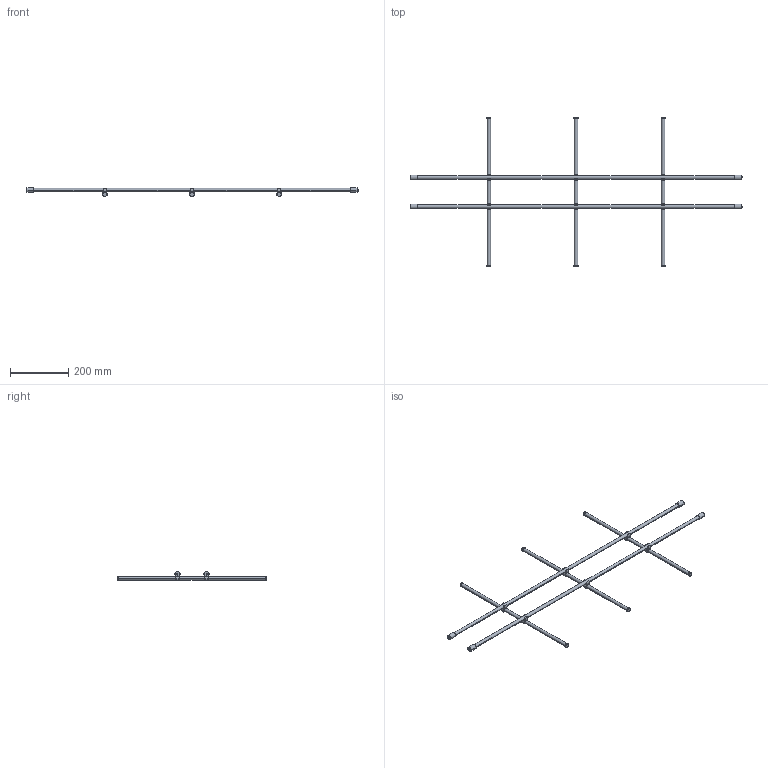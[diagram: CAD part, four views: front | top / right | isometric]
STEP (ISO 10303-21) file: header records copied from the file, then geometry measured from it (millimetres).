
FILE_DESCRIPTION (( 'STEP AP214' ), '1' );
FILE_NAME ('Magic-Classic_NL-550-KAB 1200.step', '2010-09-16T12:49:44', ( 'grass' ), ( '' ), 'SwSTEP 2.0', 'SolidWorks 2010', '' );
FILE_SCHEMA (( 'AUTOMOTIVE_DESIGN' ));
Length unit declared in the file: millimetre
Products named in the file (1): Magic-Classic_NL-550-KAB 1200
Bounding box: 1143 x 515 x 30.45 mm (x, y, z)
Volume: 457278.5 mm3; surface area: 152251.6 mm2
Topology: 1 solids, 1 shells, 190 faces, 534 edges, 356 vertices
Faces by surface type: plane 104, cylinder 86
Entity records: 6260 total; most frequent: DIRECTION 1136, CARTESIAN_POINT 1081, ORIENTED_EDGE 1068, EDGE_CURVE 534, AXIS2_PLACEMENT_3D 411, VERTEX_POINT 356, LINE 314, VECTOR 314
